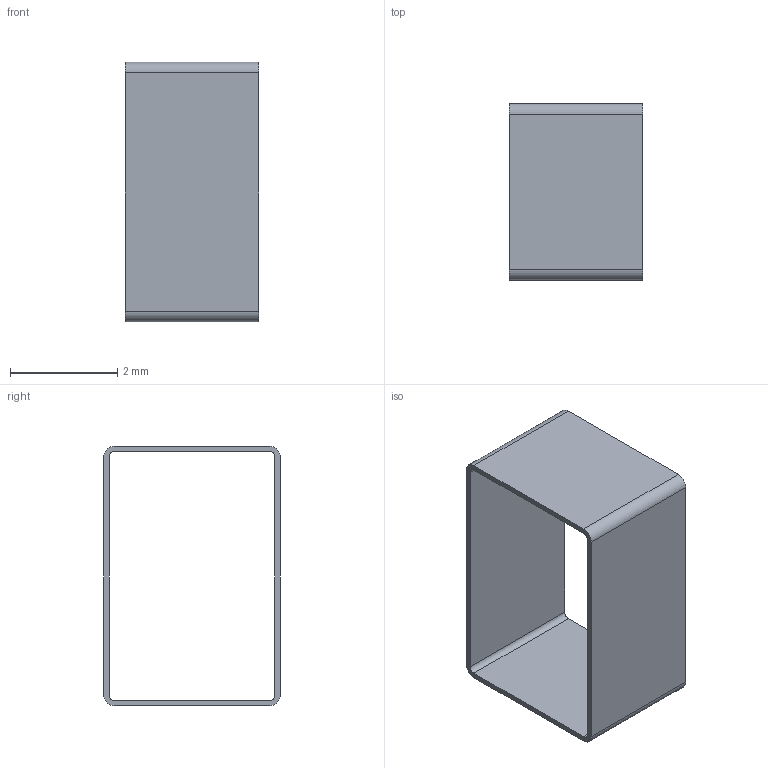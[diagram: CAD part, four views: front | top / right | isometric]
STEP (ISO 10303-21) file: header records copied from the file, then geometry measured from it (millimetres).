
FILE_DESCRIPTION(('Open CASCADE Model'),'2;1');
FILE_NAME('Open CASCADE Shape Model','2026-09-15T14:45:53',('Author'),( 'Open CASCADE'),'Open CASCADE STEP processor 7.7','Open CASCADE 7.7' ,'Unknown');
FILE_SCHEMA(('AUTOMOTIVE_DESIGN { 1 0 10303 214 1 1 1 1 }'));
Length unit declared in the file: millimetre
Products named in the file (1): J9_STOCK_COMMON_JUNCTION_POLYESTER_LOOP_0p10
Bounding box: 2.5 x 3.3 x 4.85 mm (x, y, z)
Volume: 3.9 mm3; surface area: 81.3 mm2
Topology: 1 solids, 1 shells, 18 faces, 48 edges, 32 vertices
Faces by surface type: plane 10, cylinder 8
Entity records: 1210 total; most frequent: CARTESIAN_POINT 263, DIRECTION 170, ORIENTED_EDGE 96, PCURVE 96, DEFINITIONAL_REPRESENTATION 96, LINE 92, VECTOR 92, EDGE_CURVE 48
